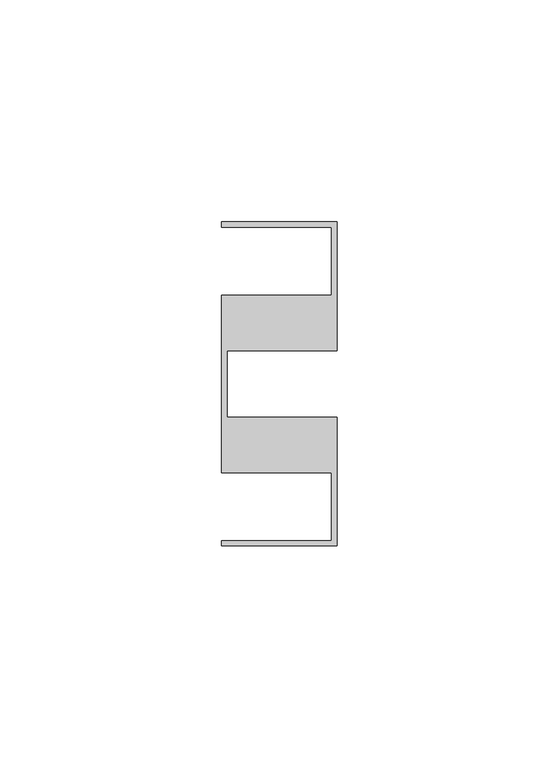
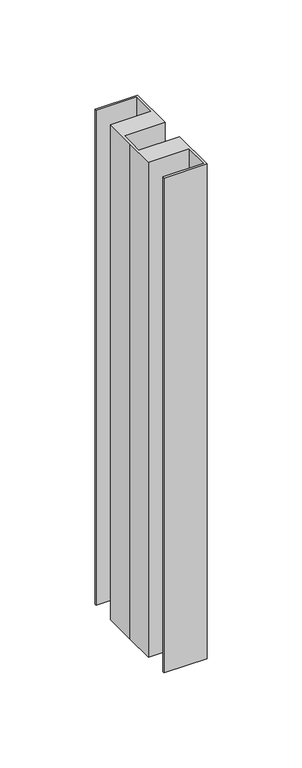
"""IFC4 building model written with IfcOpenShell, lengths in millimetres: member geometry, Прямоугольный импост : 10-AMG-2-Профиль 26Х73 Верх П."""

from ifc_helpers import new_model, si_unit, frame, origin, place, context, project, spatial, polyline, outline, extrude, source, transform, mapped, element, save


def member_62abe2fe(model_context):
    return source(origin(), model_context, "Body", "SweptSolid", [
        extrude(outline(polyline([(-26.0, 36.5), (0.0, 36.5), (0.0, 7.5116043), (-24.8, 7.5116043), (-24.8, 0.0), (-24.8, -7.5116043), (0.0, -7.5116043), (0.0, -36.5), (-26.0, -36.5), (-26.0, -35.3116043), (-1.2, -35.3116043), (-1.2, -20.0), (-26.0, -20.0), (-26.0, 0.0), (-26.0, 20.0), (-1.2, 20.0), (-1.2, 35.3), (-26.0, 35.3), (-26.0, 36.5)])), frame((0.0, 0.0, -318.0), z_axis=(0.0, 0.0, 1.0), x_axis=(1.0, 0.0, 0.0)), (0.0, 0.0, 1.0), 318.0),
    ])


if __name__ == "__main__":
    model = new_model("IFC4")
    model_context = context("Model", 3, world=origin())
    ifc_project = project(units=[si_unit("LENGTHUNIT", "METRE", prefix="MILLI")], contexts=[model_context])
    site = spatial("IfcSite", under=ifc_project)
    building = spatial("IfcBuilding", under=site)
    placement = place(None, origin())
    member_shape = member_62abe2fe(model_context)
    element("IfcMember", 1, ObjectType="Прямоугольный импост : 10-AMG-2-Профиль 26Х73 Верх П", at=placement, inside=building, context=model_context, shape_type="MappedRepresentation", body=[
        mapped(member_shape, transform((0.0, 0.0, 0.0), x_axis=(1.0, 0.0, 0.0), y_axis=(0.0, 1.0, 0.0), z_axis=(0.0, 0.0, 1.0))),
    ])
    save(model, "model.ifc")
